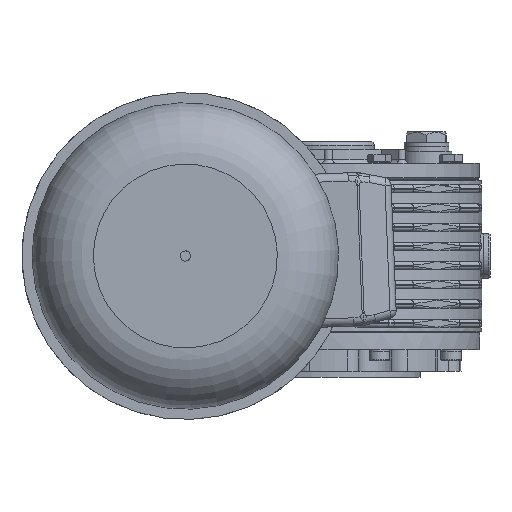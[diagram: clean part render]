
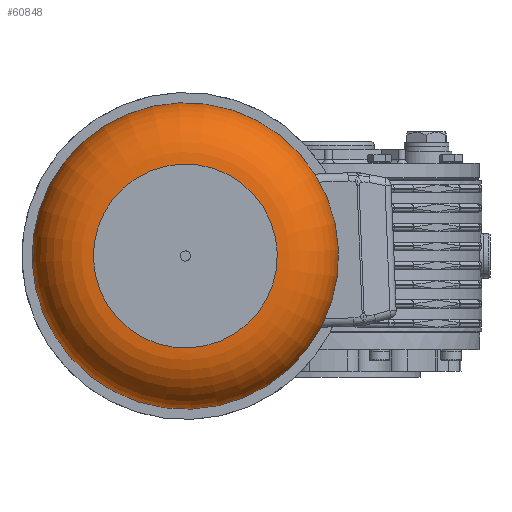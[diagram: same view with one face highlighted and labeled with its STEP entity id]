
A CAD part, left-side view. The second image highlights one B-rep face of the part: STEP entity #60848.
In plain terms, the highlighted toroidal (fillet/blend) face has major radius 45 mm and minor radius 30 mm.
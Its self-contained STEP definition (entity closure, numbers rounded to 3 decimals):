
#60821=CARTESIAN_POINT('',(314.0,0.0,0.0));
#60822=DIRECTION('',(1.0,0.0,0.0));
#60823=DIRECTION('',(0.0,0.0,-1.0));
#60824=AXIS2_PLACEMENT_3D('',#60821,#60822,#60823);
#60825=TOROIDAL_SURFACE('',#60824,45.,30.0);
#60826=CARTESIAN_POINT('',(344.0,45.,0.0));
#60827=VERTEX_POINT('',#60826);
#60828=CARTESIAN_POINT('',(344.0,0.0,0.0));
#60829=DIRECTION('',(1.0,0.0,0.0));
#60830=DIRECTION('',(0.0,1.0,0.0));
#60831=AXIS2_PLACEMENT_3D('',#60828,#60829,#60830);
#60832=CIRCLE('',#60831,45.);
#60833=EDGE_CURVE('',#60827,#60827,#60832,.T.);
#60834=ORIENTED_EDGE('',*,*,#60833,.F.);
#60835=EDGE_LOOP('',(#60834));
#60836=FACE_OUTER_BOUND('',#60835,.T.);
#60837=CARTESIAN_POINT('',(314.0,75.,0.0));
#60838=VERTEX_POINT('',#60837);
#60839=CARTESIAN_POINT('',(314.0,0.0,0.0));
#60840=DIRECTION('',(1.0,0.0,0.0));
#60841=DIRECTION('',(0.0,1.0,0.0));
#60842=AXIS2_PLACEMENT_3D('',#60839,#60840,#60841);
#60843=CIRCLE('',#60842,75.);
#60844=EDGE_CURVE('',#60838,#60838,#60843,.T.);
#60845=ORIENTED_EDGE('',*,*,#60844,.T.);
#60846=EDGE_LOOP('',(#60845));
#60847=FACE_BOUND('',#60846,.T.);
#60848=ADVANCED_FACE('',(#60836,#60847),#60825,.T.);
